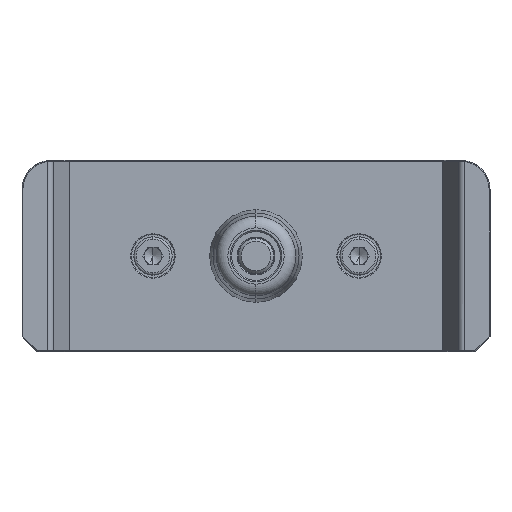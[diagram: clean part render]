
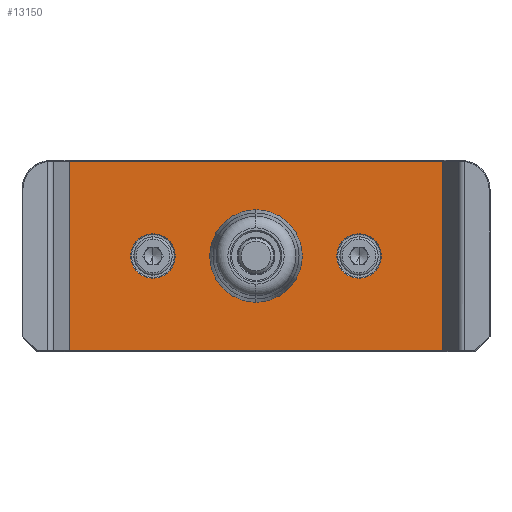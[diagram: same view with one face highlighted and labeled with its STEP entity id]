
A CAD part, front view. The second image highlights one B-rep face of the part: STEP entity #13150.
In plain terms, the highlighted planar face has unit normal (0, -1, 0).
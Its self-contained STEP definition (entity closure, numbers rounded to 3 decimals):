
#312 = AXIS2_PLACEMENT_3D ( 'NONE', #22659, #5166, #12050 ) ;
#742 = CARTESIAN_POINT ( 'NONE',  ( 35.436, -22.076, 159. ) ) ;
#750 = ORIENTED_EDGE ( 'NONE', *, *, #2766, .F. ) ;
#789 = LINE ( 'NONE', #7333, #21821 ) ;
#938 = EDGE_CURVE ( 'NONE', #15085, #19318, #20992, .T. ) ;
#1224 = CIRCLE ( 'NONE', #4928, 7.55 ) ;
#1800 = VECTOR ( 'NONE', #17208, 1000. ) ;
#2037 = EDGE_CURVE ( 'NONE', #22444, #4764, #3826, .T. ) ;
#2550 = CARTESIAN_POINT ( 'NONE',  ( -34.564, -22.076, 159. ) ) ;
#2766 = EDGE_CURVE ( 'NONE', #20018, #14059, #3490, .T. ) ;
#2818 = FACE_BOUND ( 'NONE', #15404, .T. ) ;
#3438 = ORIENTED_EDGE ( 'NONE', *, *, #6773, .T. ) ;
#3490 = LINE ( 'NONE', #22806, #20647 ) ;
#3620 = AXIS2_PLACEMENT_3D ( 'NONE', #19354, #5269, #8735 ) ;
#3663 = FACE_BOUND ( 'NONE', #16158, .T. ) ;
#3826 = LINE ( 'NONE', #18067, #14569 ) ;
#3877 = DIRECTION ( 'NONE',  ( -1., 0., 0. ) ) ;
#4039 = VERTEX_POINT ( 'NONE', #15056 ) ;
#4764 = VERTEX_POINT ( 'NONE', #13769 ) ;
#4862 = ORIENTED_EDGE ( 'NONE', *, *, #15643, .T. ) ;
#4928 = AXIS2_PLACEMENT_3D ( 'NONE', #18672, #14853, #8040 ) ;
#5166 = DIRECTION ( 'NONE',  ( 0., 1., 0. ) ) ;
#5247 = ORIENTED_EDGE ( 'NONE', *, *, #13282, .T. ) ;
#5269 = DIRECTION ( 'NONE',  ( 0., 1., 0. ) ) ;
#5555 = EDGE_CURVE ( 'NONE', #18727, #14250, #10808, .T. ) ;
#5564 = FACE_OUTER_BOUND ( 'NONE', #13801, .T. ) ;
#5991 = DIRECTION ( 'NONE',  ( 0., 1., 0. ) ) ;
#6328 = AXIS2_PLACEMENT_3D ( 'NONE', #2550, #15075, #9805 ) ;
#6367 = CARTESIAN_POINT ( 'NONE',  ( 63.936, -22.076, 126.8 ) ) ;
#6502 = CIRCLE ( 'NONE', #11546, 7.55 ) ;
#6773 = EDGE_CURVE ( 'NONE', #20018, #22444, #789, .T. ) ;
#6786 = LINE ( 'NONE', #6367, #1800 ) ;
#6943 = ORIENTED_EDGE ( 'NONE', *, *, #2037, .T. ) ;
#7333 = CARTESIAN_POINT ( 'NONE',  ( -63.064, -22.076, 191.2 ) ) ;
#7589 = DIRECTION ( 'NONE',  ( 0., 0., 1. ) ) ;
#7755 = CARTESIAN_POINT ( 'NONE',  ( -34.564, -22.076, 159. ) ) ;
#8040 = DIRECTION ( 'NONE',  ( 0., 0., 1. ) ) ;
#8179 = CARTESIAN_POINT ( 'NONE',  ( 0.436, -22.076, 171.768 ) ) ;
#8735 = DIRECTION ( 'NONE',  ( 0., 0., 1. ) ) ;
#9105 = CARTESIAN_POINT ( 'NONE',  ( 63.936, -22.076, 126.8 ) ) ;
#9239 = DIRECTION ( 'NONE',  ( 0., 1., 0. ) ) ;
#9400 = VERTEX_POINT ( 'NONE', #20120 ) ;
#9805 = DIRECTION ( 'NONE',  ( 0., 0., 1. ) ) ;
#9915 = EDGE_CURVE ( 'NONE', #4039, #9400, #6502, .T. ) ;
#10476 = EDGE_CURVE ( 'NONE', #14250, #18727, #1224, .T. ) ;
#10569 = DIRECTION ( 'NONE',  ( 0., 0., -1. ) ) ;
#10590 = ORIENTED_EDGE ( 'NONE', *, *, #9915, .T. ) ;
#10648 = ORIENTED_EDGE ( 'NONE', *, *, #938, .T. ) ;
#10685 = ORIENTED_EDGE ( 'NONE', *, *, #5555, .T. ) ;
#10808 = CIRCLE ( 'NONE', #19999, 7.55 ) ;
#11441 = CIRCLE ( 'NONE', #17770, 12.768 ) ;
#11546 = AXIS2_PLACEMENT_3D ( 'NONE', #7755, #5991, #16495 ) ;
#12050 = DIRECTION ( 'NONE',  ( 0., 0., 1. ) ) ;
#13093 = DIRECTION ( 'NONE',  ( 0., 1., 0. ) ) ;
#13150 = ADVANCED_FACE ( 'NONE', ( #2818, #3663, #20261, #5564 ), #13800, .F. ) ;
#13282 = EDGE_CURVE ( 'NONE', #19318, #15085, #11441, .T. ) ;
#13294 = ORIENTED_EDGE ( 'NONE', *, *, #10476, .T. ) ;
#13769 = CARTESIAN_POINT ( 'NONE',  ( -63.064, -22.076, 126.8 ) ) ;
#13800 = PLANE ( 'NONE',  #312 ) ;
#13801 = EDGE_LOOP ( 'NONE', ( #6943, #4862, #750, #3438 ) ) ;
#14059 = VERTEX_POINT ( 'NONE', #9105 ) ;
#14250 = VERTEX_POINT ( 'NONE', #22050 ) ;
#14412 = DIRECTION ( 'NONE',  ( 0., 0., 1. ) ) ;
#14569 = VECTOR ( 'NONE', #19919, 1000. ) ;
#14853 = DIRECTION ( 'NONE',  ( 0., 1., 0. ) ) ;
#15056 = CARTESIAN_POINT ( 'NONE',  ( -34.564, -22.076, 166.55 ) ) ;
#15075 = DIRECTION ( 'NONE',  ( 0., 1., 0. ) ) ;
#15085 = VERTEX_POINT ( 'NONE', #16388 ) ;
#15404 = EDGE_LOOP ( 'NONE', ( #10685, #13294 ) ) ;
#15643 = EDGE_CURVE ( 'NONE', #4764, #14059, #6786, .T. ) ;
#16158 = EDGE_LOOP ( 'NONE', ( #22930, #10590 ) ) ;
#16201 = CARTESIAN_POINT ( 'NONE',  ( 35.436, -22.076, 151.45 ) ) ;
#16388 = CARTESIAN_POINT ( 'NONE',  ( 0.436, -22.076, 146.232 ) ) ;
#16495 = DIRECTION ( 'NONE',  ( 0., 0., 1. ) ) ;
#16845 = CIRCLE ( 'NONE', #6328, 7.55 ) ;
#17208 = DIRECTION ( 'NONE',  ( 1., 0., 0. ) ) ;
#17770 = AXIS2_PLACEMENT_3D ( 'NONE', #21799, #9239, #14412 ) ;
#18067 = CARTESIAN_POINT ( 'NONE',  ( -63.064, -22.076, 191.5 ) ) ;
#18259 = EDGE_CURVE ( 'NONE', #9400, #4039, #16845, .T. ) ;
#18672 = CARTESIAN_POINT ( 'NONE',  ( 35.436, -22.076, 159. ) ) ;
#18683 = CARTESIAN_POINT ( 'NONE',  ( -63.064, -22.076, 191.2 ) ) ;
#18727 = VERTEX_POINT ( 'NONE', #16201 ) ;
#19318 = VERTEX_POINT ( 'NONE', #8179 ) ;
#19354 = CARTESIAN_POINT ( 'NONE',  ( 0.436, -22.076, 159. ) ) ;
#19919 = DIRECTION ( 'NONE',  ( 0., 0., -1. ) ) ;
#19999 = AXIS2_PLACEMENT_3D ( 'NONE', #742, #13093, #7589 ) ;
#20018 = VERTEX_POINT ( 'NONE', #20433 ) ;
#20120 = CARTESIAN_POINT ( 'NONE',  ( -34.564, -22.076, 151.45 ) ) ;
#20261 = FACE_BOUND ( 'NONE', #20782, .T. ) ;
#20433 = CARTESIAN_POINT ( 'NONE',  ( 63.936, -22.076, 191.2 ) ) ;
#20647 = VECTOR ( 'NONE', #10569, 1000. ) ;
#20782 = EDGE_LOOP ( 'NONE', ( #10648, #5247 ) ) ;
#20992 = CIRCLE ( 'NONE', #3620, 12.768 ) ;
#21799 = CARTESIAN_POINT ( 'NONE',  ( 0.436, -22.076, 159. ) ) ;
#21821 = VECTOR ( 'NONE', #3877, 1000. ) ;
#22050 = CARTESIAN_POINT ( 'NONE',  ( 35.436, -22.076, 166.55 ) ) ;
#22444 = VERTEX_POINT ( 'NONE', #18683 ) ;
#22659 = CARTESIAN_POINT ( 'NONE',  ( -63.064, -22.076, 191.5 ) ) ;
#22806 = CARTESIAN_POINT ( 'NONE',  ( 63.936, -22.076, 191.5 ) ) ;
#22930 = ORIENTED_EDGE ( 'NONE', *, *, #18259, .T. ) ;
